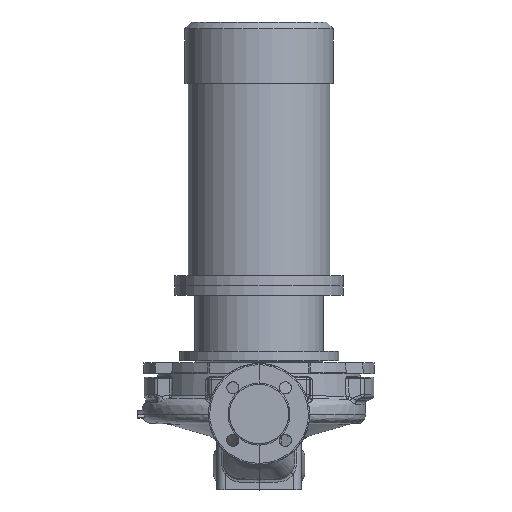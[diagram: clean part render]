
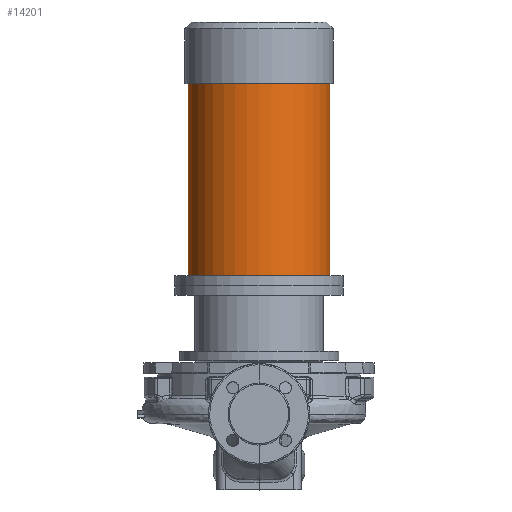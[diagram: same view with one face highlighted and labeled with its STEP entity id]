
A CAD part, top view. The second image highlights one B-rep face of the part: STEP entity #14201.
In plain terms, the highlighted cylindrical face has radius 105 mm (diameter 210 mm), a partial arc.
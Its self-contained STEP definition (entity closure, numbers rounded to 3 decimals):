
#771 = CIRCLE ( 'NONE', #39123, 105. ) ;
#999 = VECTOR ( 'NONE', #6705, 1000. ) ;
#2281 = VECTOR ( 'NONE', #3611, 1000. ) ;
#3580 = CIRCLE ( 'NONE', #9935, 105. ) ;
#3611 = DIRECTION ( 'NONE',  ( 0., 1., 0. ) ) ;
#3758 = VERTEX_POINT ( 'NONE', #7221 ) ;
#4085 = FACE_OUTER_BOUND ( 'NONE', #24086, .T. ) ;
#4960 = DIRECTION ( 'NONE',  ( 0., 1., 0. ) ) ;
#5219 = ORIENTED_EDGE ( 'NONE', *, *, #14843, .F. ) ;
#6705 = DIRECTION ( 'NONE',  ( 0., 1., 0. ) ) ;
#7221 = CARTESIAN_POINT ( 'NONE',  ( -105., 205.3, 0. ) ) ;
#9718 = CARTESIAN_POINT ( 'NONE',  ( 105., 490.3, 0. ) ) ;
#9935 = AXIS2_PLACEMENT_3D ( 'NONE', #46538, #4960, #55908 ) ;
#11104 = DIRECTION ( 'NONE',  ( 1., 0., 0. ) ) ;
#13588 = CYLINDRICAL_SURFACE ( 'NONE', #25011, 105. ) ;
#13851 = CARTESIAN_POINT ( 'NONE',  ( -105., 490.3, 0. ) ) ;
#14201 = ADVANCED_FACE ( 'NONE', ( #4085 ), #13588, .T. ) ;
#14591 = VERTEX_POINT ( 'NONE', #46901 ) ;
#14843 = EDGE_CURVE ( 'NONE', #3758, #32422, #33219, .T. ) ;
#19959 = CARTESIAN_POINT ( 'NONE',  ( 0., 581.3, 0. ) ) ;
#20851 = EDGE_CURVE ( 'NONE', #14591, #48942, #39647, .T. ) ;
#23486 = EDGE_CURVE ( 'NONE', #32422, #48942, #3580, .T. ) ;
#23908 = ORIENTED_EDGE ( 'NONE', *, *, #23486, .F. ) ;
#24086 = EDGE_LOOP ( 'NONE', ( #5219, #46232, #40562, #23908 ) ) ;
#25011 = AXIS2_PLACEMENT_3D ( 'NONE', #19959, #29140, #11104 ) ;
#27313 = DIRECTION ( 'NONE',  ( 0., 1., 0. ) ) ;
#29140 = DIRECTION ( 'NONE',  ( 0., 1., 0. ) ) ;
#30547 = EDGE_CURVE ( 'NONE', #3758, #14591, #771, .T. ) ;
#32422 = VERTEX_POINT ( 'NONE', #13851 ) ;
#33219 = LINE ( 'NONE', #39490, #999 ) ;
#37169 = DIRECTION ( 'NONE',  ( 1., 0., 0. ) ) ;
#39123 = AXIS2_PLACEMENT_3D ( 'NONE', #41445, #27313, #37169 ) ;
#39490 = CARTESIAN_POINT ( 'NONE',  ( -105., 581.3, 0. ) ) ;
#39647 = LINE ( 'NONE', #59853, #2281 ) ;
#40562 = ORIENTED_EDGE ( 'NONE', *, *, #20851, .T. ) ;
#41445 = CARTESIAN_POINT ( 'NONE',  ( 0., 205.3, 0. ) ) ;
#46232 = ORIENTED_EDGE ( 'NONE', *, *, #30547, .T. ) ;
#46538 = CARTESIAN_POINT ( 'NONE',  ( 0., 490.3, 0. ) ) ;
#46901 = CARTESIAN_POINT ( 'NONE',  ( 105., 205.3, 0. ) ) ;
#48942 = VERTEX_POINT ( 'NONE', #9718 ) ;
#55908 = DIRECTION ( 'NONE',  ( 1., 0., 0. ) ) ;
#59853 = CARTESIAN_POINT ( 'NONE',  ( 105., 581.3, 0. ) ) ;
